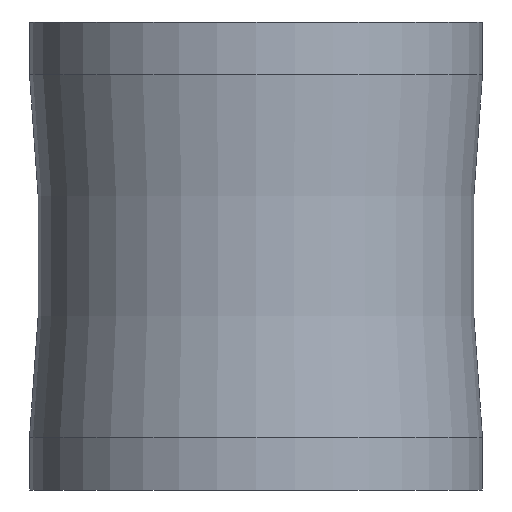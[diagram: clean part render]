
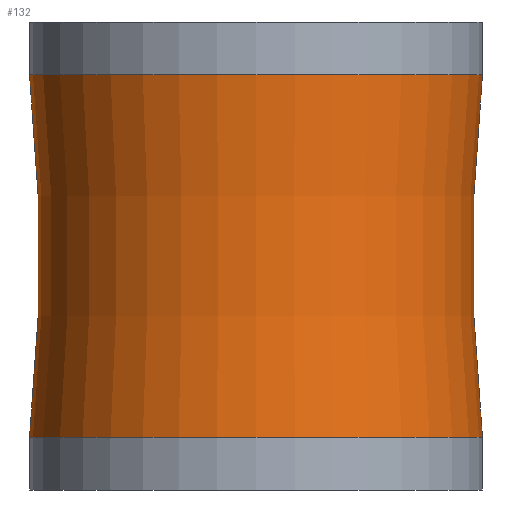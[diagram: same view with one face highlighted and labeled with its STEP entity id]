
A CAD part, front view. The second image highlights one B-rep face of the part: STEP entity #132.
In plain terms, the highlighted toroidal (fillet/blend) face has major radius 255.728 mm and minor radius 227 mm.
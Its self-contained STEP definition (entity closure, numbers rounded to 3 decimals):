
#98=TOROIDAL_SURFACE('',#261,255.728,227.);
#110=FACE_OUTER_BOUND('',#150,.T.);
#132=ADVANCED_FACE('',(#110),#98,.F.);
#150=EDGE_LOOP('',(#181,#182,#183,#184));
#181=ORIENTED_EDGE('',*,*,#219,.F.);
#182=ORIENTED_EDGE('',*,*,#218,.T.);
#183=ORIENTED_EDGE('',*,*,#221,.T.);
#184=ORIENTED_EDGE('',*,*,#222,.F.);
#201=VERTEX_POINT('',#344);
#202=VERTEX_POINT('',#346);
#203=VERTEX_POINT('',#352);
#204=VERTEX_POINT('',#354);
#218=EDGE_CURVE('',#201,#202,#234,.T.);
#219=EDGE_CURVE('',#201,#203,#235,.T.);
#221=EDGE_CURVE('',#202,#204,#237,.T.);
#222=EDGE_CURVE('',#203,#204,#238,.T.);
#234=CIRCLE('',#254,30.);
#235=CIRCLE('',#256,227.);
#237=CIRCLE('',#258,227.);
#238=CIRCLE('',#260,30.);
#254=AXIS2_PLACEMENT_3D('',#349,#298,#299);
#256=AXIS2_PLACEMENT_3D('',#351,#302,#303);
#258=AXIS2_PLACEMENT_3D('',#355,#306,#307);
#260=AXIS2_PLACEMENT_3D('',#357,#310,#311);
#261=AXIS2_PLACEMENT_3D('',#358,#312,#313);
#298=DIRECTION('',(0.,0.,1.));
#299=DIRECTION('',(0.,1.,0.));
#302=DIRECTION('',(0.,-1.,0.));
#303=DIRECTION('',(0.947,0.,0.322));
#306=DIRECTION('',(0.,1.,0.));
#307=DIRECTION('',(-0.947,0.,0.322));
#310=DIRECTION('',(0.,0.,1.));
#311=DIRECTION('',(0.,1.,0.));
#312=DIRECTION('',(0.,0.,1.));
#313=DIRECTION('',(1.,0.,0.));
#344=CARTESIAN_POINT('',(-30.,0.,7.));
#346=CARTESIAN_POINT('',(30.,0.,7.));
#349=CARTESIAN_POINT('',(0.,0.,7.));
#351=CARTESIAN_POINT('',(-255.728,0.,31.));
#352=CARTESIAN_POINT('',(-30.,0.,55.));
#354=CARTESIAN_POINT('',(30.,0.,55.));
#355=CARTESIAN_POINT('',(255.728,0.,31.));
#357=CARTESIAN_POINT('',(0.,0.,55.));
#358=CARTESIAN_POINT('',(0.,0.,31.));
